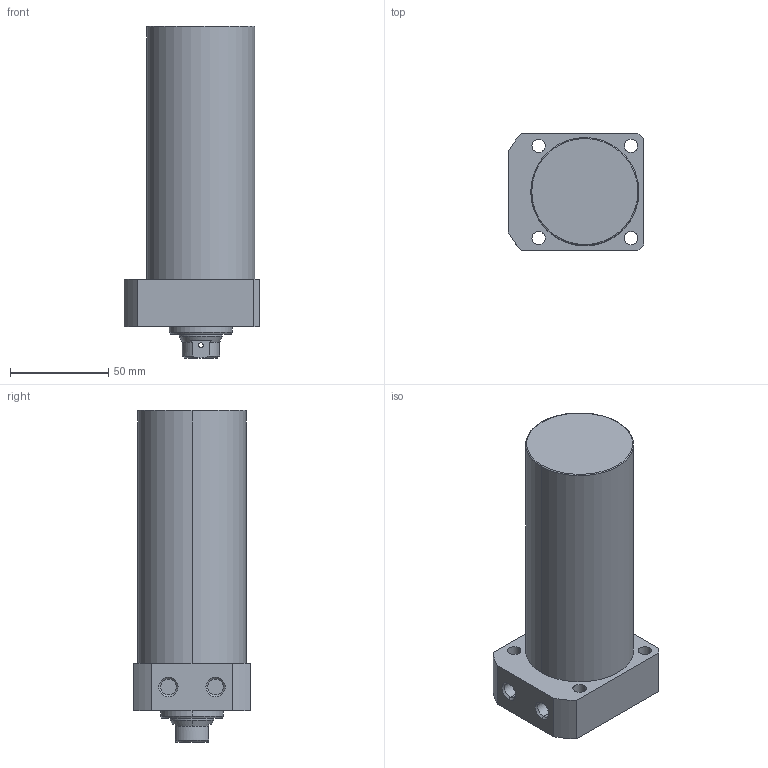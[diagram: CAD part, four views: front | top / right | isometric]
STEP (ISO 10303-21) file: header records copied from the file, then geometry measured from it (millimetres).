
FILE_DESCRIPTION (( 'STEP AP203' ), '1' );
FILE_NAME ('CLLR055-CB-0100.STEP', '2017-05-16T03:48:59', ( '' ), ( '' ), 'SwSTEP 2.0', 'SolidWorks 2015', '' );
FILE_SCHEMA (( 'CONFIG_CONTROL_DESIGN' ));
Length unit declared in the file: millimetre
Products named in the file (1): CLLR055-CB-0100
Bounding box: 69 x 60 x 169 mm (x, y, z)
Volume: 404067.3 mm3; surface area: 40625.1 mm2
Topology: 1 solids, 1 shells, 69 faces, 162 edges, 101 vertices
Faces by surface type: cylinder 33, plane 19, cone 15, torus 2
Entity records: 2175 total; most frequent: CARTESIAN_POINT 451, DIRECTION 368, ORIENTED_EDGE 320, EDGE_CURVE 160, AXIS2_PLACEMENT_3D 150, VERTEX_POINT 101, EDGE_LOOP 89, CIRCLE 80
